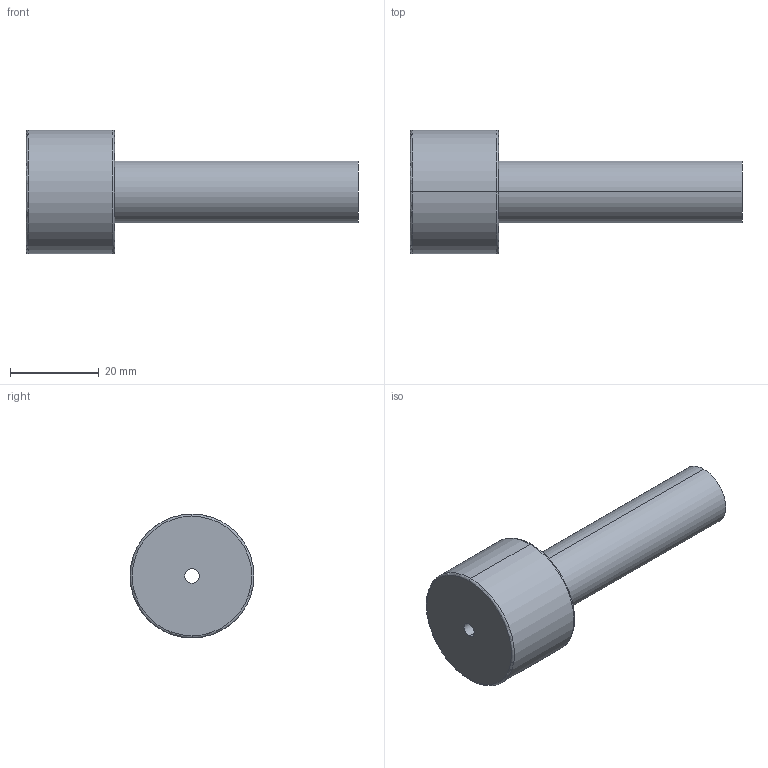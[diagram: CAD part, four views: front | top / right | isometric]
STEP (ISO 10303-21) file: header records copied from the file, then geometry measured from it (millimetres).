
FILE_DESCRIPTION(('CATIA V5 STEP Exchange'),'2;1');
FILE_NAME('C:\Users\Utente\Desktop\IO LAVORO\3D X SITO CF\X SITO\PLASTICA\3D files 367\367-14X75.stp','2021-03-24T15:15:55+00:00',('none'),('none'),'CATIA Version 5 Release 20 GA (IN-10)','CATIA V5 STEP AP203','none');
FILE_SCHEMA(('CONFIG_CONTROL_DESIGN'));
Length unit declared in the file: millimetre
Products named in the file (1): 367-14X75
Bounding box: 75 x 28 x 28 mm (x, y, z)
Volume: 19064.3 mm3; surface area: 6563 mm2
Topology: 1 solids, 1 shells, 13 faces, 42 edges, 32 vertices
Faces by surface type: torus 4, cylinder 4, plane 3, cone 2
Entity records: 608 total; most frequent: CARTESIAN_POINT 194, ORIENTED_EDGE 84, DIRECTION 60, AXIS2_PLACEMENT_3D 42, EDGE_CURVE 42, VERTEX_POINT 32, CIRCLE 28, EDGE_LOOP 16
